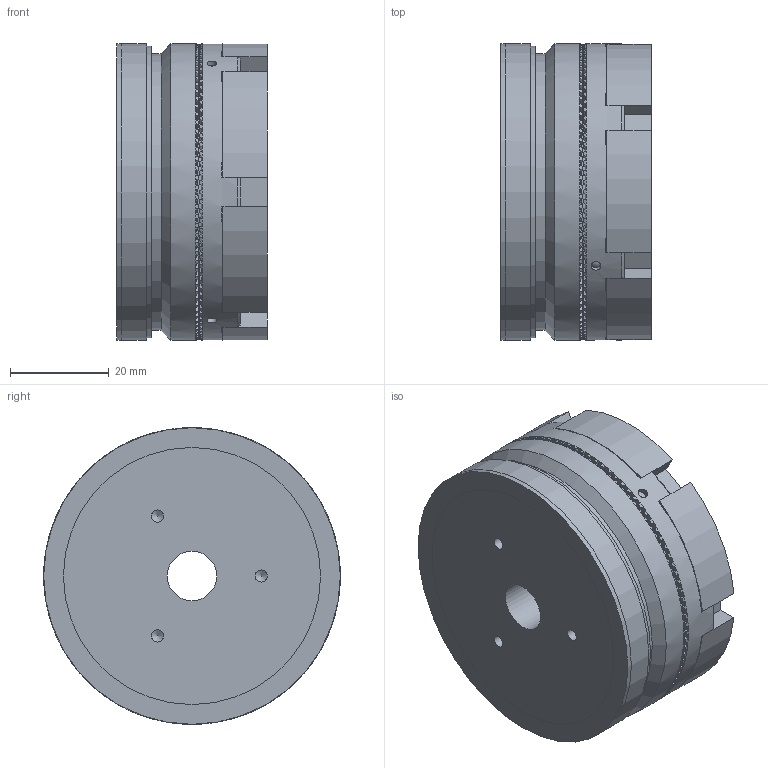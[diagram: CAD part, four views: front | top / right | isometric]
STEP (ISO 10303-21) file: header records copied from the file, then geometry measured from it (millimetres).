
FILE_DESCRIPTION((''),'2;1');
FILE_NAME('\\Srv-tecnico\dati\UFFICIO TECNICO\ARCHIVIO INVENTOR\DISEGNI\UFFICIO TECNICO\07_Innesti_Elettromagnetici_a_Dentini\07_01 EC_Z\07_01_060_01 EC060_Z\07_01_060_01 EC060_Z@STEP.stp','2013-10-01T13:59:45',('stefano'),(''),'Autodesk Inventor 2010','Autodesk Inventor 2010','');
FILE_SCHEMA(('CONFIG_CONTROL_DESIGN'));
Length unit declared in the file: millimetre
Products named in the file (1): 07_01_060_01 EC060_Z_Sostituto_1
Bounding box: 30.5 x 60 x 60 mm (x, y, z)
Volume: 61510.9 mm3; surface area: 24505.3 mm2
Topology: 8 solids, 8 shells, 1211 faces, 3495 edges, 2301 vertices
Faces by surface type: plane 887, cone 221, cylinder 48, bspline 46, sphere 9
Full cylindrical faces by diameter (mm): 2.2 x3, 4 x3, 6 x3, 10 x1, 23 x2, 33 x2, 49 x2, 54 x1, 55.5 x1, 56 x3, 59 x1, 60 x4
Entity records: 41972 total; most frequent: CARTESIAN_POINT 8205, DIRECTION 7952, ORIENTED_EDGE 6740, AXIS2_PLACEMENT_3D 3474, EDGE_CURVE 3370, VERTEX_POINT 2263, ELLIPSE 1536, EDGE_LOOP 1324
